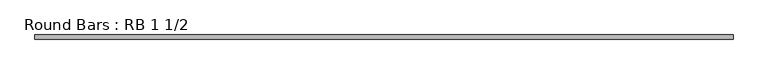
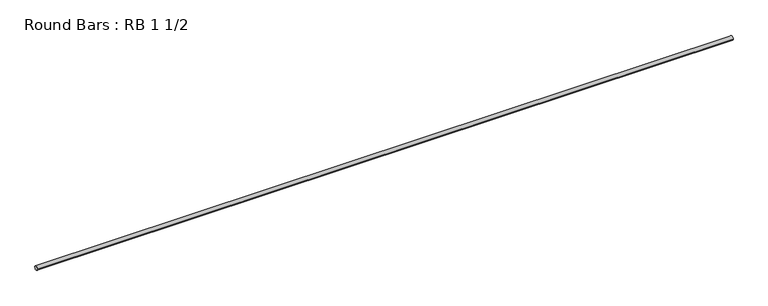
"""IFC4 building model written with IfcOpenShell, lengths in millimetres: member geometry, Round Bars : RB 1 1/2."""

from ifc_helpers import new_model, si_unit, point, frame, origin, origin_2d, place, context, project, spatial, circle_curve, trimmed, segment, composite_curve, outline, extrude, source, transform, mapped, element, save


def round_bars_rb_1_1_2_87f701cf(model_context):
    return source(origin(), model_context, "Body", "SweptSolid", [
        extrude(outline(composite_curve([segment(trimmed(circle_curve(origin_2d(), 19.05), [point((19.05, 0.0))], [point((-19.05, 0.0))], False, "CARTESIAN"), True, "CONTINUOUS"), segment(trimmed(circle_curve(origin_2d(), 19.05), [point((-19.05, 0.0))], [point((19.05, 0.0))], False, "CARTESIAN"), True, "CONTINUOUS")], self_intersect=False)), frame((-3241.7583388, 0.0, 0.0), z_axis=(1.0, 0.0, 0.0), x_axis=(0.0, 1.0, 0.0)), (0.0, 0.0, 1.0), 6483.5166776),
    ])


if __name__ == "__main__":
    model = new_model("IFC4")
    model_context = context("Model", 3, world=origin())
    ifc_project = project(units=[si_unit("LENGTHUNIT", "METRE", prefix="MILLI")], contexts=[model_context])
    site = spatial("IfcSite", under=ifc_project)
    building = spatial("IfcBuilding", under=site)
    placement = place(None, origin())
    round_bars_rb_1_1_2_shape = round_bars_rb_1_1_2_87f701cf(model_context)
    element("IfcMember", 1, ObjectType="Round Bars : RB 1 1/2", at=placement, inside=building, context=model_context, shape_type="MappedRepresentation", body=[
        mapped(round_bars_rb_1_1_2_shape, transform((0.0, 0.0, 0.0), x_axis=(1.0, 0.0, 0.0), y_axis=(0.0, 1.0, 0.0), z_axis=(0.0, 0.0, 1.0))),
    ])
    save(model, "model.ifc")
